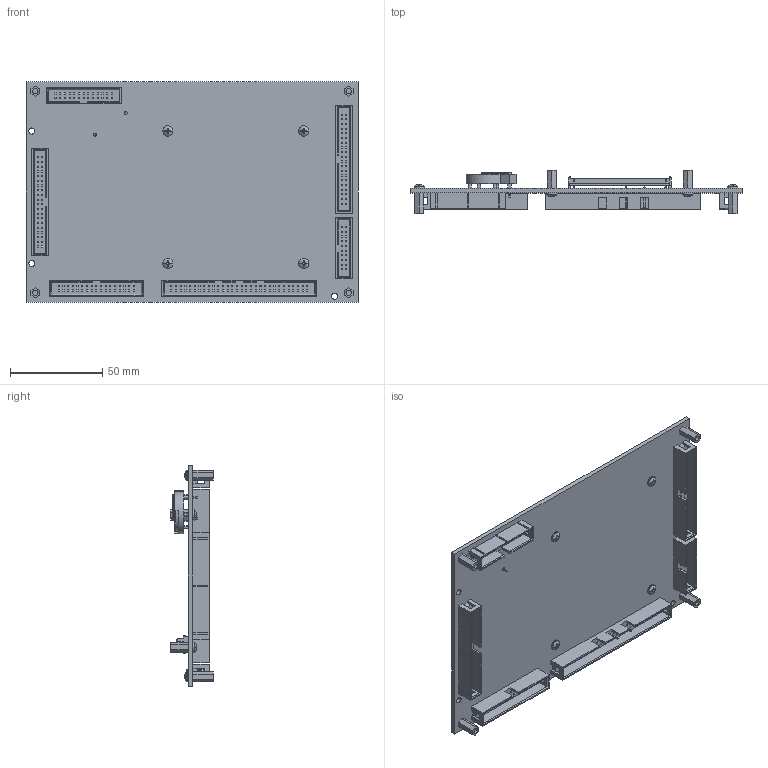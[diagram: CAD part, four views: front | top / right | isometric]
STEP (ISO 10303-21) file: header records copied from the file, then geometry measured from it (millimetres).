
FILE_DESCRIPTION((''),'2;1');
FILE_NAME('CU_NI-9684','2018-03-23T',('kleong'),(''),'CREO PARAMETRIC BY PTC INC, 2015380','CREO PARAMETRIC BY PTC INC, 2015380','');
FILE_SCHEMA(('AUTOMOTIVE_DESIGN { 1 0 10303 214 1 1 1 1 }'));
Products named in the file (1): CU_NI-9684
Bounding box: 179.83 x 23.16 x 119.38 mm (x, y, z)
Volume: 68327.2 mm3; surface area: 62572.3 mm2
Topology: 1 solids, 1 shells, 2247 faces, 5648 edges, 3624 vertices
Faces by surface type: plane 1926, extrusion 160, cylinder 129, torus 16, sphere 16
Entity records: 68322 total; most frequent: CARTESIAN_POINT 14261, ORIENTED_EDGE 11280, DIRECTION 10100, EDGE_CURVE 5640, VECTOR 5078, LINE 4918, VERTEX_POINT 3776, EDGE_LOOP 2560
